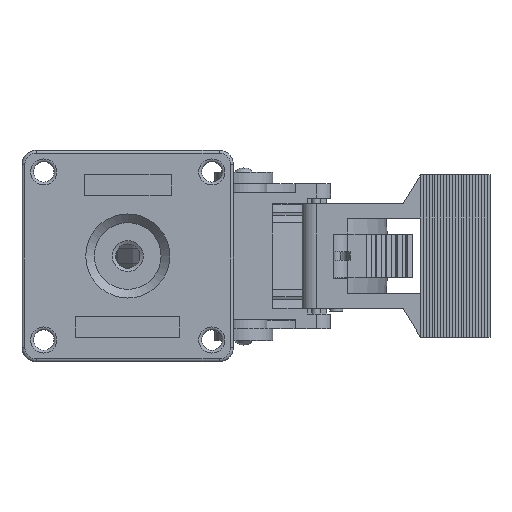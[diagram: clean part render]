
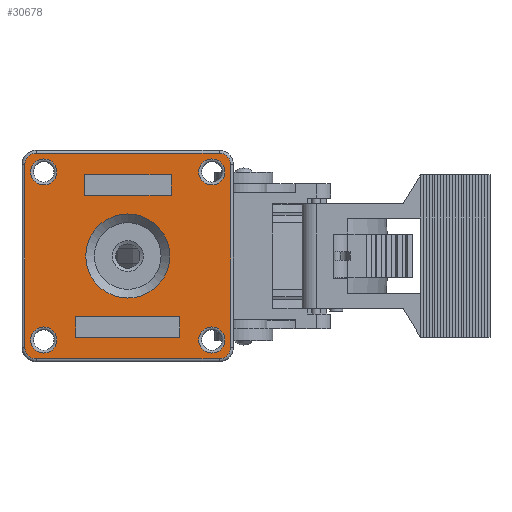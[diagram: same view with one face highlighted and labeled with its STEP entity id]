
A CAD part, top view. The second image highlights one B-rep face of the part: STEP entity #30678.
In plain terms, the highlighted planar face has unit normal (0, 0, 1).
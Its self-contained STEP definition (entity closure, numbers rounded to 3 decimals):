
#29937=CARTESIAN_POINT('',(85.252,94.932,57.3));
#29938=VERTEX_POINT('',#29937);
#29946=CARTESIAN_POINT('',(89.252,90.932,57.3));
#29947=VERTEX_POINT('',#29946);
#29948=CARTESIAN_POINT('',(85.252,90.932,57.3));
#29949=DIRECTION('',(0.0,0.0,-1.));
#29950=DIRECTION('',(0.707,0.707,0.0));
#29951=AXIS2_PLACEMENT_3D('',#29948,#29949,#29950);
#29952=CIRCLE('',#29951,4.);
#29953=EDGE_CURVE('',#29938,#29947,#29952,.T.);
#29970=CARTESIAN_POINT('',(18.252,90.932,57.3));
#29971=VERTEX_POINT('',#29970);
#29972=CARTESIAN_POINT('',(22.252,94.932,57.3));
#29973=VERTEX_POINT('',#29972);
#29974=CARTESIAN_POINT('',(22.252,90.932,57.3));
#29975=DIRECTION('',(0.0,0.0,-1.));
#29976=DIRECTION('',(-0.707,0.707,0.0));
#29977=AXIS2_PLACEMENT_3D('',#29974,#29975,#29976);
#29978=CIRCLE('',#29977,4.);
#29979=EDGE_CURVE('',#29971,#29973,#29978,.T.);
#30017=CARTESIAN_POINT('',(89.252,27.932,57.3));
#30018=VERTEX_POINT('',#30017);
#30026=CARTESIAN_POINT('',(85.252,23.932,57.3));
#30027=VERTEX_POINT('',#30026);
#30028=CARTESIAN_POINT('',(85.252,27.932,57.3));
#30029=DIRECTION('',(0.0,0.0,-1.));
#30030=DIRECTION('',(0.707,-0.707,0.0));
#30031=AXIS2_PLACEMENT_3D('',#30028,#30029,#30030);
#30032=CIRCLE('',#30031,4.);
#30033=EDGE_CURVE('',#30018,#30027,#30032,.T.);
#30050=CARTESIAN_POINT('',(22.252,23.932,57.3));
#30051=VERTEX_POINT('',#30050);
#30052=CARTESIAN_POINT('',(18.252,27.932,57.3));
#30053=VERTEX_POINT('',#30052);
#30054=CARTESIAN_POINT('',(22.252,27.932,57.3));
#30055=DIRECTION('',(0.0,0.0,-1.));
#30056=DIRECTION('',(-0.707,-0.707,0.0));
#30057=AXIS2_PLACEMENT_3D('',#30054,#30055,#30056);
#30058=CIRCLE('',#30057,4.);
#30059=EDGE_CURVE('',#30051,#30053,#30058,.T.);
#30520=CARTESIAN_POINT('',(53.752,59.432,57.3));
#30521=DIRECTION('',(0.0,0.0,-1.0));
#30522=DIRECTION('',(-1.0,0.0,0.0));
#30523=AXIS2_PLACEMENT_3D('',#30520,#30521,#30522);
#30524=PLANE('',#30523);
#30525=CARTESIAN_POINT('',(85.252,23.932,57.3));
#30526=DIRECTION('',(-1.0,0.0,0.0));
#30527=VECTOR('',#30526,63.);
#30528=LINE('',#30525,#30527);
#30529=EDGE_CURVE('',#30027,#30051,#30528,.T.);
#30530=ORIENTED_EDGE('',*,*,#30529,.F.);
#30531=ORIENTED_EDGE('',*,*,#30033,.F.);
#30532=CARTESIAN_POINT('',(89.252,90.932,57.3));
#30533=DIRECTION('',(0.0,-1.0,0.0));
#30534=VECTOR('',#30533,63.);
#30535=LINE('',#30532,#30534);
#30536=EDGE_CURVE('',#29947,#30018,#30535,.T.);
#30537=ORIENTED_EDGE('',*,*,#30536,.F.);
#30538=ORIENTED_EDGE('',*,*,#29953,.F.);
#30539=CARTESIAN_POINT('',(22.252,94.932,57.3));
#30540=DIRECTION('',(1.0,0.0,0.0));
#30541=VECTOR('',#30540,63.);
#30542=LINE('',#30539,#30541);
#30543=EDGE_CURVE('',#29973,#29938,#30542,.T.);
#30544=ORIENTED_EDGE('',*,*,#30543,.F.);
#30545=ORIENTED_EDGE('',*,*,#29979,.F.);
#30546=CARTESIAN_POINT('',(18.252,27.932,57.3));
#30547=DIRECTION('',(0.0,1.0,0.0));
#30548=VECTOR('',#30547,63.);
#30549=LINE('',#30546,#30548);
#30550=EDGE_CURVE('',#30053,#29971,#30549,.T.);
#30551=ORIENTED_EDGE('',*,*,#30550,.F.);
#30552=ORIENTED_EDGE('',*,*,#30059,.F.);
#30553=EDGE_LOOP('',(#30530,#30531,#30537,#30538,#30544,#30545,#30551,#30552));
#30554=FACE_OUTER_BOUND('',#30553,.T.);
#30555=CARTESIAN_POINT('',(71.752,31.432,57.3));
#30556=VERTEX_POINT('',#30555);
#30557=CARTESIAN_POINT('',(35.752,31.432,57.3));
#30558=VERTEX_POINT('',#30557);
#30559=CARTESIAN_POINT('',(71.752,31.432,57.3));
#30560=DIRECTION('',(-1.0,0.0,0.0));
#30561=VECTOR('',#30560,36.);
#30562=LINE('',#30559,#30561);
#30563=EDGE_CURVE('',#30556,#30558,#30562,.T.);
#30564=ORIENTED_EDGE('',*,*,#30563,.T.);
#30565=CARTESIAN_POINT('',(35.752,38.432,57.3));
#30566=VERTEX_POINT('',#30565);
#30567=CARTESIAN_POINT('',(35.752,31.432,57.3));
#30568=DIRECTION('',(0.0,1.0,0.0));
#30569=VECTOR('',#30568,7.);
#30570=LINE('',#30567,#30569);
#30571=EDGE_CURVE('',#30558,#30566,#30570,.T.);
#30572=ORIENTED_EDGE('',*,*,#30571,.T.);
#30573=CARTESIAN_POINT('',(71.752,38.432,57.3));
#30574=VERTEX_POINT('',#30573);
#30575=CARTESIAN_POINT('',(35.752,38.432,57.3));
#30576=DIRECTION('',(1.0,0.0,0.0));
#30577=VECTOR('',#30576,36.);
#30578=LINE('',#30575,#30577);
#30579=EDGE_CURVE('',#30566,#30574,#30578,.T.);
#30580=ORIENTED_EDGE('',*,*,#30579,.T.);
#30581=CARTESIAN_POINT('',(71.752,38.432,57.3));
#30582=DIRECTION('',(0.0,-1.0,0.0));
#30583=VECTOR('',#30582,7.);
#30584=LINE('',#30581,#30583);
#30585=EDGE_CURVE('',#30574,#30556,#30584,.T.);
#30586=ORIENTED_EDGE('',*,*,#30585,.T.);
#30587=EDGE_LOOP('',(#30564,#30572,#30580,#30586));
#30588=FACE_BOUND('',#30587,.T.);
#30589=CARTESIAN_POINT('',(68.752,80.432,57.3));
#30590=VERTEX_POINT('',#30589);
#30591=CARTESIAN_POINT('',(38.752,80.432,57.3));
#30592=VERTEX_POINT('',#30591);
#30593=CARTESIAN_POINT('',(68.752,80.432,57.3));
#30594=DIRECTION('',(-1.0,0.0,0.0));
#30595=VECTOR('',#30594,30.0);
#30596=LINE('',#30593,#30595);
#30597=EDGE_CURVE('',#30590,#30592,#30596,.T.);
#30598=ORIENTED_EDGE('',*,*,#30597,.T.);
#30599=CARTESIAN_POINT('',(38.752,87.432,57.3));
#30600=VERTEX_POINT('',#30599);
#30601=CARTESIAN_POINT('',(38.752,80.432,57.3));
#30602=DIRECTION('',(0.0,1.0,0.0));
#30603=VECTOR('',#30602,7.);
#30604=LINE('',#30601,#30603);
#30605=EDGE_CURVE('',#30592,#30600,#30604,.T.);
#30606=ORIENTED_EDGE('',*,*,#30605,.T.);
#30607=CARTESIAN_POINT('',(68.752,87.432,57.3));
#30608=VERTEX_POINT('',#30607);
#30609=CARTESIAN_POINT('',(38.752,87.432,57.3));
#30610=DIRECTION('',(1.0,0.0,0.0));
#30611=VECTOR('',#30610,30.0);
#30612=LINE('',#30609,#30611);
#30613=EDGE_CURVE('',#30600,#30608,#30612,.T.);
#30614=ORIENTED_EDGE('',*,*,#30613,.T.);
#30615=CARTESIAN_POINT('',(68.752,87.432,57.3));
#30616=DIRECTION('',(0.0,-1.0,0.0));
#30617=VECTOR('',#30616,7.);
#30618=LINE('',#30615,#30617);
#30619=EDGE_CURVE('',#30608,#30590,#30618,.T.);
#30620=ORIENTED_EDGE('',*,*,#30619,.T.);
#30621=EDGE_LOOP('',(#30598,#30606,#30614,#30620));
#30622=FACE_BOUND('',#30621,.T.);
#30623=CARTESIAN_POINT('',(78.252,30.432,57.3));
#30624=VERTEX_POINT('',#30623);
#30625=CARTESIAN_POINT('',(82.752,30.432,57.3));
#30626=DIRECTION('',(0.0,0.0,1.0));
#30627=DIRECTION('',(-1.0,0.0,0.0));
#30628=AXIS2_PLACEMENT_3D('',#30625,#30626,#30627);
#30629=CIRCLE('',#30628,4.5);
#30630=EDGE_CURVE('',#30624,#30624,#30629,.T.);
#30631=ORIENTED_EDGE('',*,*,#30630,.F.);
#30632=EDGE_LOOP('',(#30631));
#30633=FACE_BOUND('',#30632,.T.);
#30634=CARTESIAN_POINT('',(20.252,88.432,57.3));
#30635=VERTEX_POINT('',#30634);
#30636=CARTESIAN_POINT('',(24.752,88.432,57.3));
#30637=DIRECTION('',(0.0,0.0,1.0));
#30638=DIRECTION('',(-1.0,0.0,0.0));
#30639=AXIS2_PLACEMENT_3D('',#30636,#30637,#30638);
#30640=CIRCLE('',#30639,4.5);
#30641=EDGE_CURVE('',#30635,#30635,#30640,.T.);
#30642=ORIENTED_EDGE('',*,*,#30641,.F.);
#30643=EDGE_LOOP('',(#30642));
#30644=FACE_BOUND('',#30643,.T.);
#30645=CARTESIAN_POINT('',(39.252,59.432,57.3));
#30646=VERTEX_POINT('',#30645);
#30647=CARTESIAN_POINT('',(53.752,59.432,57.3));
#30648=DIRECTION('',(0.0,0.0,-1.0));
#30649=DIRECTION('',(1.0,0.0,0.0));
#30650=AXIS2_PLACEMENT_3D('',#30647,#30648,#30649);
#30651=CIRCLE('',#30650,14.5);
#30652=EDGE_CURVE('',#30646,#30646,#30651,.T.);
#30653=ORIENTED_EDGE('',*,*,#30652,.T.);
#30654=EDGE_LOOP('',(#30653));
#30655=FACE_BOUND('',#30654,.T.);
#30656=CARTESIAN_POINT('',(78.252,88.432,57.3));
#30657=VERTEX_POINT('',#30656);
#30658=CARTESIAN_POINT('',(82.752,88.432,57.3));
#30659=DIRECTION('',(0.0,0.0,1.0));
#30660=DIRECTION('',(-1.0,0.0,0.0));
#30661=AXIS2_PLACEMENT_3D('',#30658,#30659,#30660);
#30662=CIRCLE('',#30661,4.5);
#30663=EDGE_CURVE('',#30657,#30657,#30662,.T.);
#30664=ORIENTED_EDGE('',*,*,#30663,.F.);
#30665=EDGE_LOOP('',(#30664));
#30666=FACE_BOUND('',#30665,.T.);
#30667=CARTESIAN_POINT('',(20.252,30.432,57.3));
#30668=VERTEX_POINT('',#30667);
#30669=CARTESIAN_POINT('',(24.752,30.432,57.3));
#30670=DIRECTION('',(0.0,0.0,1.0));
#30671=DIRECTION('',(-1.0,0.0,0.0));
#30672=AXIS2_PLACEMENT_3D('',#30669,#30670,#30671);
#30673=CIRCLE('',#30672,4.5);
#30674=EDGE_CURVE('',#30668,#30668,#30673,.T.);
#30675=ORIENTED_EDGE('',*,*,#30674,.F.);
#30676=EDGE_LOOP('',(#30675));
#30677=FACE_BOUND('',#30676,.T.);
#30678=ADVANCED_FACE('',(#30554,#30588,#30622,#30633,#30644,#30655,#30666,#30677),#30524,.F.);
